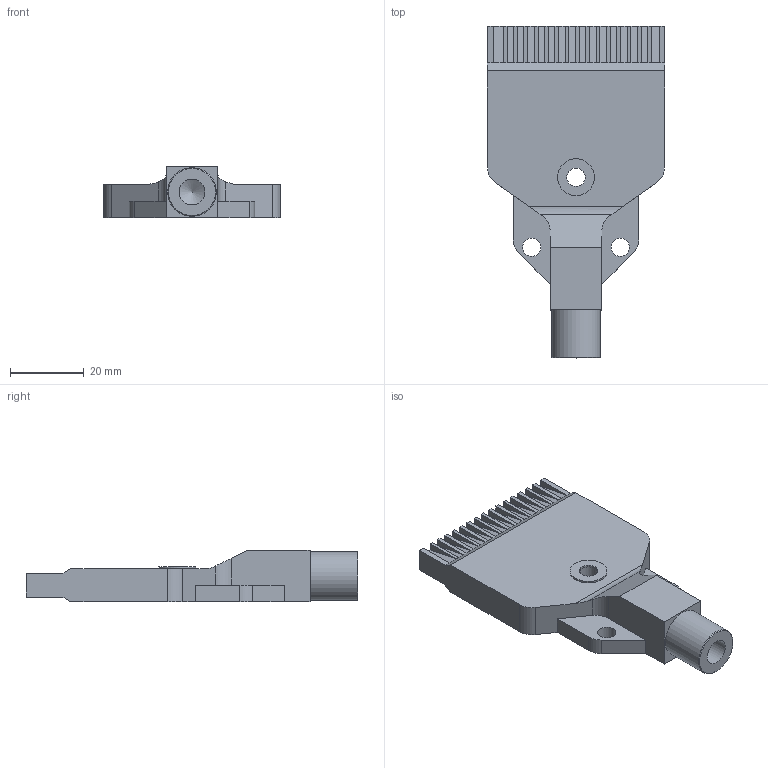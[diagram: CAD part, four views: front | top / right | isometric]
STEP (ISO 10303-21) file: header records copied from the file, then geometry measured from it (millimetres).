
FILE_DESCRIPTION(/* description */ (''),/* implementation_level */ '2;1');
FILE_NAME(/* name */ 'S:\UTecnico\ArchivioUT\SZ-silenziatori\SZ700014.stp',/* time_stamp */ '2015-11-24T14:16:47+01:00',/* author */ ('UT5'),/* organization */ (''),/* preprocessor_version */ 'ST-DEVELOPER v16.1',/* originating_system */ 'Autodesk Inventor 2016',/* authorisation */ '');
FILE_SCHEMA (('AUTOMOTIVE_DESIGN { 1 0 10303 214 3 1 1 }'));
Length unit declared in the file: millimetre
Products named in the file (1): SZ700014
Bounding box: 48 x 90 x 14 mm (x, y, z)
Volume: 25350.1 mm3; surface area: 10132.6 mm2
Topology: 1 solids, 1 shells, 170 faces, 429 edges, 263 vertices
Faces by surface type: plane 154, cylinder 14, cone 2
Full cylindrical faces by diameter (mm): 5 x4, 7 x1, 10 x1, 13.157 x1
Entity records: 4915 total; most frequent: CARTESIAN_POINT 852, ORIENTED_EDGE 838, DIRECTION 793, EDGE_CURVE 419, LINE 387, VECTOR 387, VERTEX_POINT 262, AXIS2_PLACEMENT_3D 203
